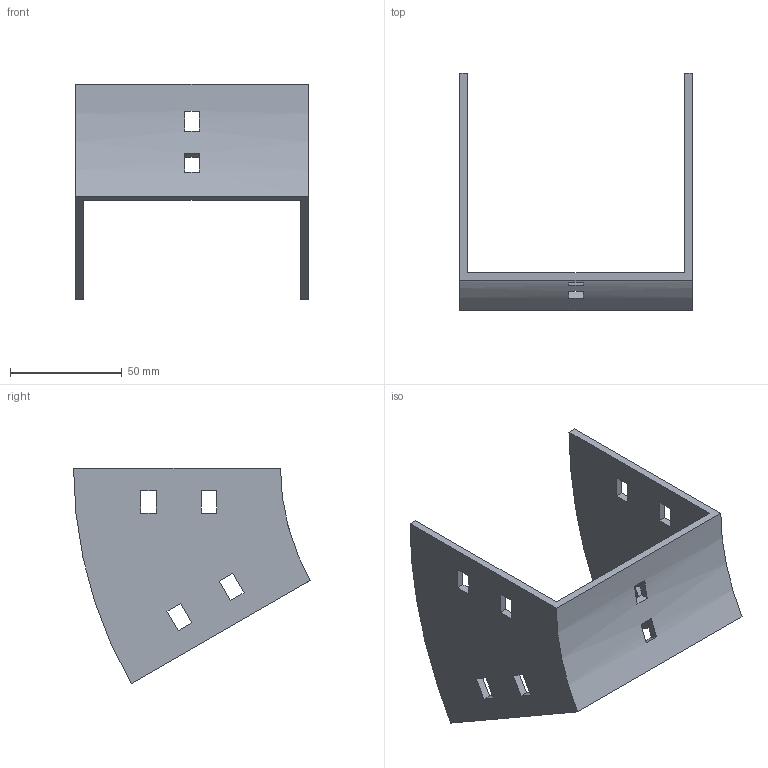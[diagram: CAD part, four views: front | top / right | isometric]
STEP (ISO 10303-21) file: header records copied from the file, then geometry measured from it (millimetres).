
FILE_DESCRIPTION (( 'STEP AP214' ), '1' );
FILE_NAME ('35B1I100.step', '2025-02-21T09:26:50', ( '' ), ( '' ), 'SwSTEP 2.0', 'SolidWorks 2023', '' );
FILE_SCHEMA (( 'AUTOMOTIVE_DESIGN' ));
Length unit declared in the file: millimetre
Products named in the file (1): 35B1I100
Bounding box: 104 x 105.9 x 96.25 mm (x, y, z)
Volume: 65295.3 mm3; surface area: 41156.8 mm2
Topology: 1 solids, 1 shells, 50 faces, 144 edges, 96 vertices
Faces by surface type: plane 46, cylinder 4
Entity records: 1687 total; most frequent: CARTESIAN_POINT 291, ORIENTED_EDGE 288, DIRECTION 262, EDGE_CURVE 144, LINE 128, VECTOR 128, VERTEX_POINT 96, EDGE_LOOP 70
